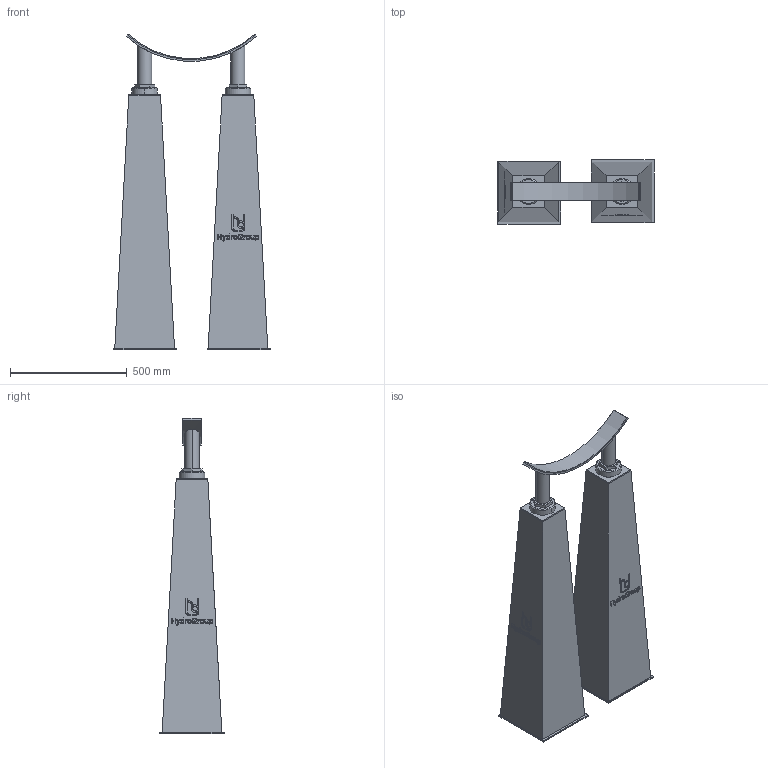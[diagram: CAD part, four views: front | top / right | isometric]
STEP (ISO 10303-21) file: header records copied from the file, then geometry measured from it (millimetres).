
FILE_DESCRIPTION(('STEP AP214'),'1');
FILE_NAME('RSRFE-IV-DUO_DN800.stp','2018-06-29T11:26:59',(' '),(' '),'Spatial InterOp 3D',' ',' ');
FILE_SCHEMA(('automotive_design'));
Length unit declared in the file: millimetre
Products named in the file (10): 1; 2; 3; 4; 5; 6; 7; 8; 9; 10
Bounding box: 670 x 276.01 x 1352.63 mm (x, y, z)
Volume: 89927616.2 mm3; surface area: 2621755.4 mm2
Topology: 10 solids, 10 shells, 408 faces, 1014 edges, 664 vertices
Faces by surface type: plane 270, cylinder 62, extrusion 48, cone 28
Entity records: 16797 total; most frequent: CARTESIAN_POINT 3704, ORIENTED_EDGE 2028, DIRECTION 1826, EDGE_CURVE 1014, VECTOR 790, LINE 742, VERTEX_POINT 664, AXIS2_PLACEMENT_3D 518
